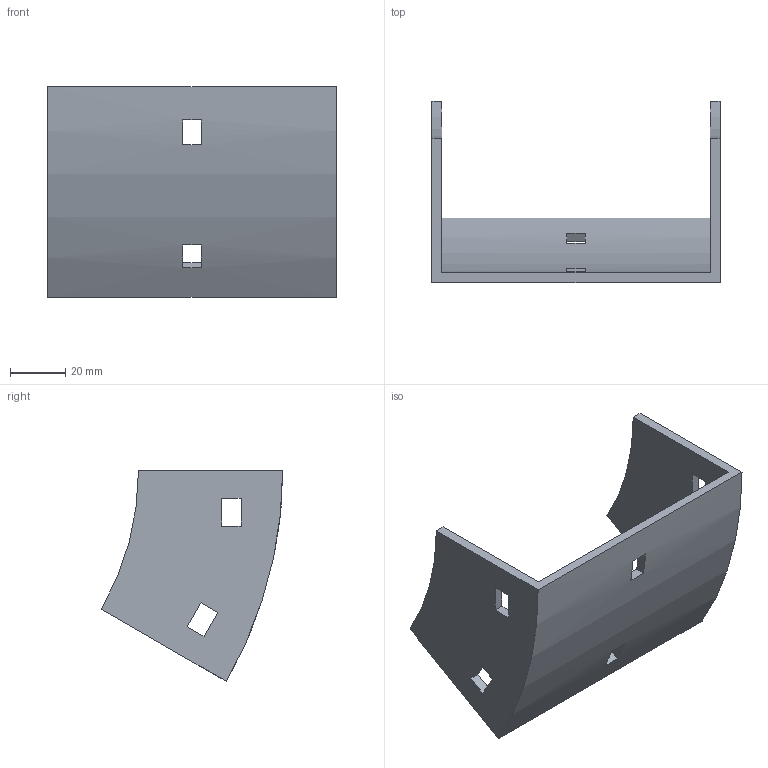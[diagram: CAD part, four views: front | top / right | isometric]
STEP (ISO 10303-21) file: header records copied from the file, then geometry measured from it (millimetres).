
FILE_DESCRIPTION (( 'STEP AP214' ), '1' );
FILE_NAME ('32B1B100.step', '2025-02-21T09:43:23', ( '' ), ( '' ), 'SwSTEP 2.0', 'SolidWorks 2023', '' );
FILE_SCHEMA (( 'AUTOMOTIVE_DESIGN' ));
Length unit declared in the file: millimetre
Products named in the file (1): 32B1B100
Bounding box: 104 x 65.4 x 76 mm (x, y, z)
Volume: 49331 mm3; surface area: 30663.5 mm2
Topology: 1 solids, 1 shells, 34 faces, 96 edges, 64 vertices
Faces by surface type: plane 30, cylinder 4
Entity records: 1143 total; most frequent: CARTESIAN_POINT 195, ORIENTED_EDGE 192, DIRECTION 182, EDGE_CURVE 96, LINE 80, VECTOR 80, VERTEX_POINT 64, AXIS2_PLACEMENT_3D 51
